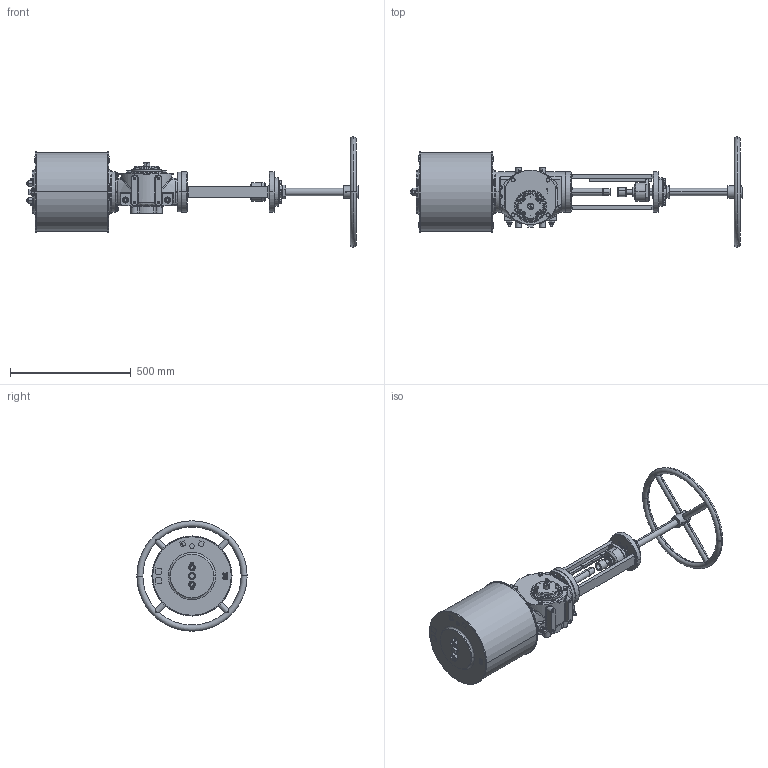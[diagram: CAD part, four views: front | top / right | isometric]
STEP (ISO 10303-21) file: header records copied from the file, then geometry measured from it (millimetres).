
FILE_DESCRIPTION (( 'STEP AP203' ), '1' );
FILE_NAME ('VTS1-300-MSD.STEP', '2023-01-01T07:43:17', ( '' ), ( '' ), 'SwSTEP 2.0', 'SolidWorks 2020', '' );
FILE_SCHEMA (( 'CONFIG_CONTROL_DESIGN' ));
Length unit declared in the file: millimetre
Products named in the file (1): VTS1-300-MSD
Bounding box: 1375.61 x 457 x 457 mm (x, y, z)
Volume: 36548939.7 mm3; surface area: 1532209.5 mm2
Topology: 3 solids, 26 shells, 2557 faces, 6568 edges, 4115 vertices
Faces by surface type: plane 1027, cylinder 755, cone 456, bspline 225, torus 66, sphere 28
Entity records: 104805 total; most frequent: CARTESIAN_POINT 46272, ORIENTED_EDGE 12900, DIRECTION 11210, EDGE_CURVE 6450, AXIS2_PLACEMENT_3D 4348, VERTEX_POINT 4115, EDGE_LOOP 2833, FACE_OUTER_BOUND 2557
